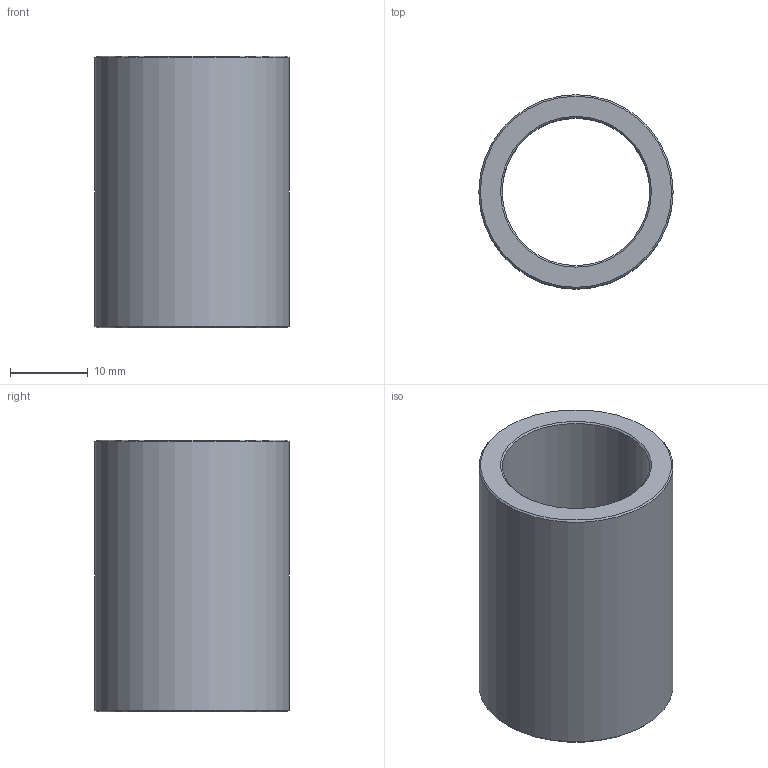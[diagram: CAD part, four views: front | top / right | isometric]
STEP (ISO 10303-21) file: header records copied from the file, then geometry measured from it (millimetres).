
FILE_DESCRIPTION(('STEP AP203'),'1');
FILE_NAME('C:/Users/Rodrigo/Desktop/GA3.019.035-1.step','2016-11-07T13:23:26',(' '),(' '),'Spatial InterOp 3D',' ',' ');
FILE_SCHEMA(('CONFIG_CONTROL_DESIGN'));
Length unit declared in the file: millimetre
Products named in the file (1): 1
Bounding box: 25 x 25 x 35 mm (x, y, z)
Volume: 7251.5 mm3; surface area: 5220.4 mm2
Topology: 1 solids, 1 shells, 8 faces, 14 edges, 8 vertices
Faces by surface type: cone 4, cylinder 2, plane 2
Full cylindrical faces by diameter (mm): 19 x1, 25 x1
Entity records: 212 total; most frequent: DIRECTION 34, CARTESIAN_POINT 25, AXIS2_PLACEMENT_3D 17, EDGE_LOOP 16, ORIENTED_EDGE 16, FACE_OUTER_BOUND 10, ADVANCED_FACE 8, EDGE_CURVE 8
